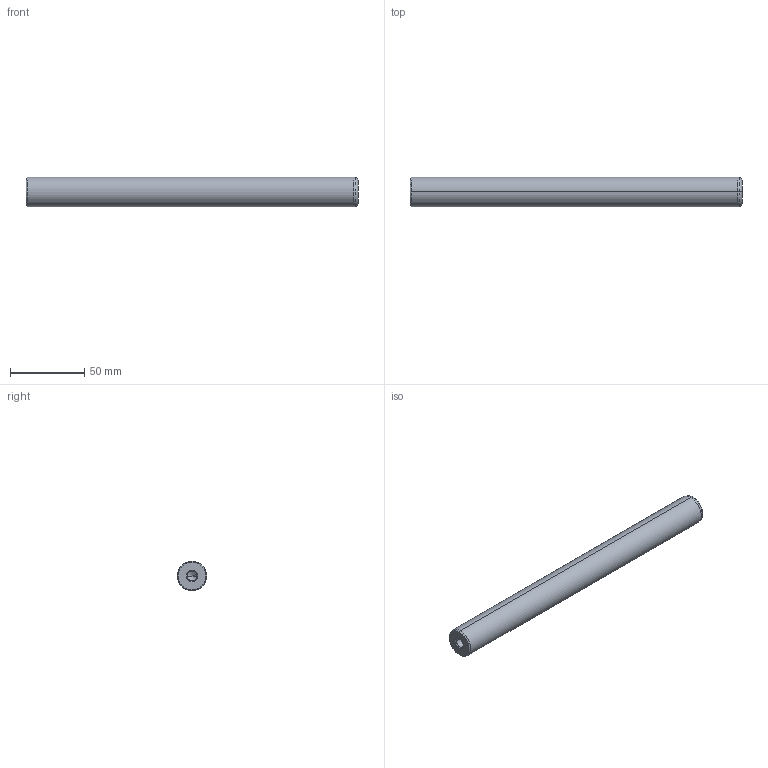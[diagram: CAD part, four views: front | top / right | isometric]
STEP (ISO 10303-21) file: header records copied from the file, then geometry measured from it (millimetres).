
FILE_DESCRIPTION(('CATIA V5 STEP Exchange'),'2;1');
FILE_NAME('C:\Users\Utente\Desktop\IO LAVORO\3D X SITO CF\X SITO\720\720-20x224.stp','2021-01-01T12:56:39+00:00',('none'),('none'),'CATIA Version 5 Release 20 GA (IN-10)','CATIA V5 STEP AP203','none');
FILE_SCHEMA(('CONFIG_CONTROL_DESIGN'));
Length unit declared in the file: millimetre
Products named in the file (1): 720-20x224
Bounding box: 224 x 20 x 20 mm (x, y, z)
Volume: 68534.5 mm3; surface area: 15595.9 mm2
Topology: 1 solids, 1 shells, 22 faces, 56 edges, 34 vertices
Faces by surface type: cone 12, cylinder 6, plane 2, torus 2
Entity records: 749 total; most frequent: CARTESIAN_POINT 210, ORIENTED_EDGE 104, DIRECTION 89, EDGE_CURVE 52, AXIS2_PLACEMENT_3D 50, VERTEX_POINT 34, CIRCLE 27, EDGE_LOOP 24
